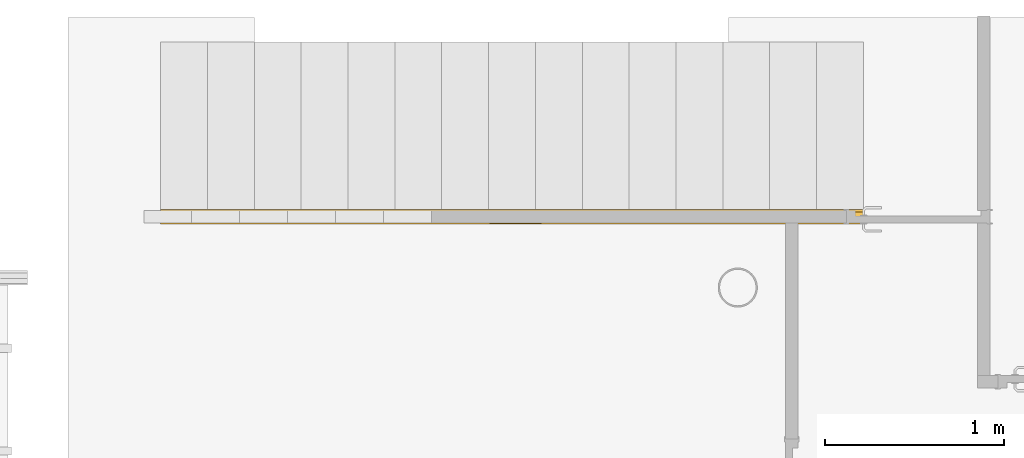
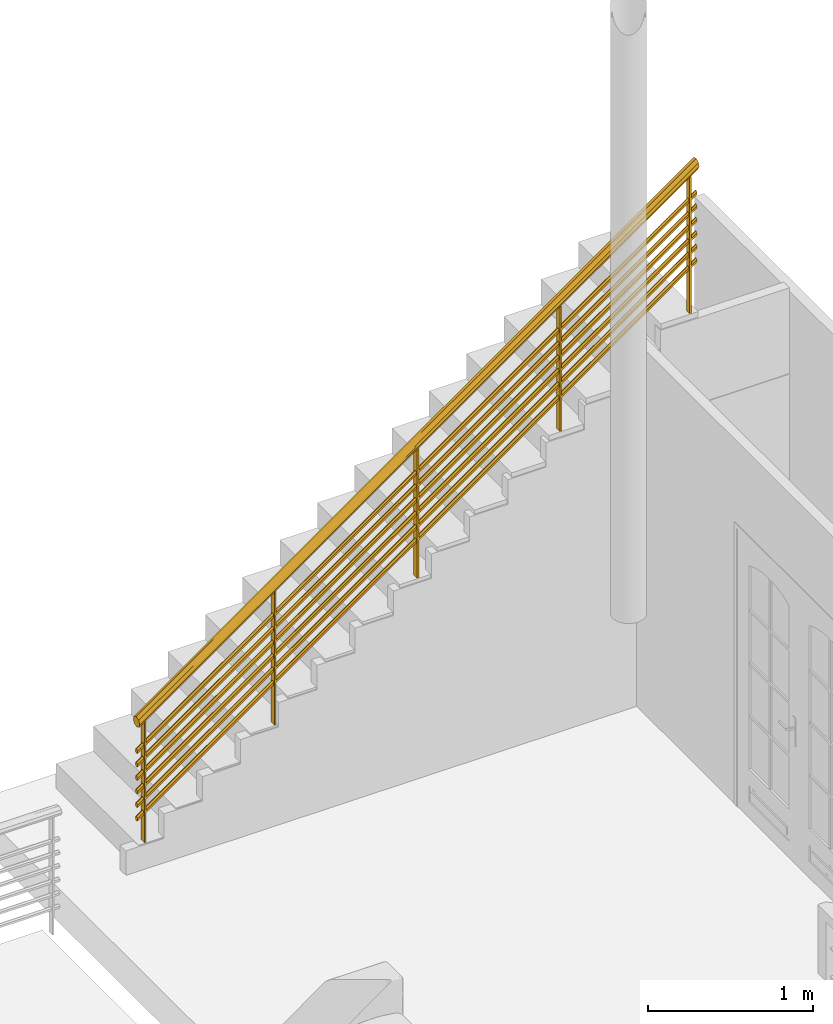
# One storey, part 12 of 15: 1 railing, 1 element without a shape of its own.
"""IFC2X3 building model written with IfcOpenShell, lengths in metres."""

from ifc_helpers import new_model, entity, si_unit, converted_unit, derived_unit, direction, frame, origin, place, context, subcontext, project, spatial, faceted_brep, element, aggregate, save


model = new_model("IFC2X3")

# Units and contexts
model_context = context("Model", 3, precision=1e-05, world=origin(), true_north=direction((6.12303176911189e-17, 1.0)))
body_context = subcontext(model_context, "Body", "Model", "MODEL_VIEW")
ifc_project = project(units=[si_unit("LENGTHUNIT", "METRE"), si_unit("AREAUNIT", "SQUARE_METRE"), si_unit("VOLUMEUNIT", "CUBIC_METRE"), converted_unit("PLANEANGLEUNIT", "DEGREE", entity("IfcRatioMeasure", 0.0174532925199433), si_unit("PLANEANGLEUNIT", "RADIAN"), dimensions=[0, 0, 0, 0, 0, 0, 0]), si_unit("MASSUNIT", "GRAM", prefix="KILO"), derived_unit("MASSDENSITYUNIT", [(si_unit("MASSUNIT", "GRAM", prefix="KILO"), 1), (si_unit("LENGTHUNIT", "METRE"), -3)]), derived_unit("MOMENTOFINERTIAUNIT", [(si_unit("LENGTHUNIT", "METRE"), 4)]), si_unit("TIMEUNIT", "SECOND"), si_unit("FREQUENCYUNIT", "HERTZ"), si_unit("THERMODYNAMICTEMPERATUREUNIT", "DEGREE_CELSIUS"), derived_unit("THERMALTRANSMITTANCEUNIT", [(si_unit("MASSUNIT", "GRAM", prefix="KILO"), 1), (si_unit("THERMODYNAMICTEMPERATUREUNIT", "KELVIN"), -1), (si_unit("TIMEUNIT", "SECOND"), -3)]), derived_unit("VOLUMETRICFLOWRATEUNIT", [(si_unit("LENGTHUNIT", "METRE"), 3), (si_unit("TIMEUNIT", "SECOND"), -1)]), si_unit("ELECTRICCURRENTUNIT", "AMPERE"), si_unit("ELECTRICVOLTAGEUNIT", "VOLT"), si_unit("POWERUNIT", "WATT"), si_unit("FORCEUNIT", "NEWTON", prefix="KILO"), si_unit("ILLUMINANCEUNIT", "LUX"), si_unit("LUMINOUSFLUXUNIT", "LUMEN"), si_unit("LUMINOUSINTENSITYUNIT", "CANDELA"), derived_unit("USERDEFINED", [(si_unit("MASSUNIT", "GRAM", prefix="KILO"), -1), (si_unit("LENGTHUNIT", "METRE"), -2), (si_unit("TIMEUNIT", "SECOND"), 3), (si_unit("LUMINOUSFLUXUNIT", "LUMEN"), 1)]), derived_unit("LINEARVELOCITYUNIT", [(si_unit("LENGTHUNIT", "METRE"), 1), (si_unit("TIMEUNIT", "SECOND"), -1)]), si_unit("PRESSUREUNIT", "PASCAL"), derived_unit("USERDEFINED", [(si_unit("LENGTHUNIT", "METRE"), -2), (si_unit("MASSUNIT", "GRAM", prefix="KILO"), 1), (si_unit("TIMEUNIT", "SECOND"), -2)]), derived_unit("LINEARFORCEUNIT", [(si_unit("MASSUNIT", "GRAM", prefix="KILO"), 1), (si_unit("LENGTHUNIT", "METRE"), 1), (si_unit("TIMEUNIT", "SECOND"), -2), (si_unit("LENGTHUNIT", "METRE"), -1)]), derived_unit("PLANARFORCEUNIT", [(si_unit("MASSUNIT", "GRAM", prefix="KILO"), 1), (si_unit("LENGTHUNIT", "METRE"), 1), (si_unit("TIMEUNIT", "SECOND"), -2), (si_unit("LENGTHUNIT", "METRE"), -2)])], contexts=[model_context])

# Site, building, storey
site_placement = place(None, origin())
site = spatial("IfcSite", under=ifc_project, at=site_placement, Name="Surface", CompositionType="ELEMENT")
building_placement = place(site_placement, origin())
building = spatial("IfcBuilding", under=site, at=building_placement, CompositionType="ELEMENT")
storey_placement = place(building_placement, frame((0.0, 0.0, 2.65)))
storey = spatial("IfcBuildingStorey", under=building, at=storey_placement, Name="Niveau étage", CompositionType="ELEMENT", Elevation=2.65)

# Stair, railing
stair_placement = place(storey_placement, origin())
stair = element("IfcStair", 1, at=stair_placement, inside=storey, Name="Escalier coulé sur place:Escalier", ObjectType="Escalier coulé sur place:Monobloc", ShapeType="STRAIGHT_RUN_STAIR")
railing_placement = place(stair_placement, frame((2.40601672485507, 5.84760138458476, 0.184374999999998)))
railing = element("IfcRailing", 2, at=railing_placement, Name="Garde-corps:Type Bateau", ObjectType="Garde-corps:Type Bateau", PredefinedType="NOTDEFINED", context=body_context, shape_type="Brep", body=[
    faceted_brep([(2.965375, 0.0615952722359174, 2.95164757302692), (2.953375, 0.0615952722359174, 2.95164757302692), (2.953375, 0.0215952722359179, 2.95164757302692), (2.965375, 0.0215952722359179, 2.95164757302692), (2.965375, 0.0615952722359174, 2.028125), (2.965375, 0.0215952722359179, 2.028125), (2.953375, 0.0215952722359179, 2.028125), (2.953375, 0.0615952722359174, 2.028125)], [[[0, 1, 2, 3]], [[4, 5, 6, 7]], [[1, 0, 4, 7]], [[2, 1, 7, 6]], [[3, 2, 6, 5]], [[0, 3, 5, 4]]]),
    faceted_brep([(1.965375, 0.0615952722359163, 2.24590594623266), (1.953375, 0.0615952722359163, 2.24590594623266), (1.953375, 0.0215952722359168, 2.24590594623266), (1.965375, 0.0215952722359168, 2.24590594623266), (1.965375, 0.0615952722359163, 1.290625), (1.965375, 0.0215952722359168, 1.290625), (1.953375, 0.0215952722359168, 1.290625), (1.953375, 0.0615952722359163, 1.290625)], [[[0, 1, 2, 3]], [[4, 5, 6, 7]], [[1, 0, 4, 7]], [[2, 1, 7, 6]], [[3, 2, 6, 5]], [[0, 3, 5, 4]]]),
    faceted_brep([(0.965375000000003, 0.0615952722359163, 1.5401643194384), (0.953375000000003, 0.0615952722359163, 1.5401643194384), (0.953375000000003, 0.0215952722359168, 1.5401643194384), (0.965375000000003, 0.0215952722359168, 1.5401643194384), (0.965375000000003, 0.0615952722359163, 0.553125), (0.965375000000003, 0.0215952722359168, 0.553125), (0.953375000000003, 0.0215952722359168, 0.553125), (0.953375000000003, 0.0615952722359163, 0.553125)], [[[0, 1, 2, 3]], [[4, 5, 6, 7]], [[1, 0, 4, 7]], [[2, 1, 7, 6]], [[3, 2, 6, 5]], [[0, 3, 5, 4]]]),
    faceted_brep([(3.87475, 0.0615952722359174, 3.59343136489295), (3.86275, 0.0615952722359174, 3.59343136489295), (3.86275, 0.0215952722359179, 3.59343136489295), (3.87475, 0.0215952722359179, 3.59343136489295), (3.87475, 0.0615952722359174, 2.58125), (3.87475, 0.0215952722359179, 2.58125), (3.86275, 0.0215952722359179, 2.58125), (3.86275, 0.0615952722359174, 2.58125)], [[[0, 1, 2, 3]], [[4, 5, 6, 7]], [[1, 0, 4, 7]], [[2, 1, 7, 6]], [[3, 2, 6, 5]], [[0, 3, 5, 4]]]),
    faceted_brep([(0.0560000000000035, 0.0615952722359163, 0.898380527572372), (0.0440000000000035, 0.0615952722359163, 0.898380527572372), (0.0440000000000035, 0.0215952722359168, 0.898380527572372), (0.0560000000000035, 0.0215952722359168, 0.898380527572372), (0.0560000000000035, 0.0615952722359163, 0.0), (0.0560000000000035, 0.0215952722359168, 0.0), (0.0440000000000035, 0.0215952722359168, 0.0), (0.0440000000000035, 0.0615952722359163, 0.0)], [[[0, 1, 2, 3]], [[4, 5, 6, 7]], [[1, 0, 4, 7]], [[2, 1, 7, 6]], [[3, 2, 6, 5]], [[0, 3, 5, 4]]]),
    faceted_brep([(0.0, 0.0545856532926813, 0.690820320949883), (0.0, 0.0545856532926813, 0.686230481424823), (0.0, 0.0545856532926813, 0.681640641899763), (0.0, 0.0545856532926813, 0.677050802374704), (0.0, 0.0545856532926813, 0.672460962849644), (0.0, 0.0513380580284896, 0.670166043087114), (0.0, 0.0480904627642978, 0.667871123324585), (0.0, 0.0454848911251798, 0.666029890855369), (0.0, 0.0415952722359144, 0.663281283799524), (0.0, 0.037705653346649, 0.666029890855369), (0.0, 0.0338160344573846, 0.668778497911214), (0.0, 0.0312104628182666, 0.670619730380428), (0.0, 0.0286048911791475, 0.672460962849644), (0.0, 0.0286048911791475, 0.677050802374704), (0.0, 0.0286048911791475, 0.681640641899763), (0.0, 0.0286048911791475, 0.686230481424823), (0.0, 0.0286048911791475, 0.690820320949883), (0.0, 0.0318524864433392, 0.693115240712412), (0.0, 0.0351000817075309, 0.695410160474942), (0.0, 0.0383476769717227, 0.697705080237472), (0.0, 0.0415952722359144, 0.700000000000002), (0.0, 0.0454848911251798, 0.697251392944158), (0.0, 0.0480904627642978, 0.695410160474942), (0.0, 0.0513380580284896, 0.693115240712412), (3.91875, 0.0545856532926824, 3.45644532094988), (3.91875, 0.051980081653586, 3.45828655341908), (3.91875, 0.0493745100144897, 3.46012778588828), (3.91875, 0.0454848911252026, 3.46287639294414), (3.91875, 0.0415952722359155, 3.465625), (3.91875, 0.03770565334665, 3.46287639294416), (3.91875, 0.035100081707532, 3.46103516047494), (3.91875, 0.0318524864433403, 3.45874024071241), (3.91875, 0.0286048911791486, 3.45644532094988), (3.91875, 0.0286048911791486, 3.45185548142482), (3.91875, 0.0286048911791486, 3.44726564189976), (3.91875, 0.0286048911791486, 3.4426758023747), (3.91875, 0.0286048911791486, 3.43808596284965), (3.91875, 0.0318524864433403, 3.43579104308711), (3.91875, 0.035100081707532, 3.43349612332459), (3.91875, 0.037705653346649, 3.43165489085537), (3.91875, 0.0415952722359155, 3.42890628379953), (3.91875, 0.0448428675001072, 3.43120120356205), (3.91875, 0.0480904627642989, 3.43349612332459), (3.91875, 0.0513380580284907, 3.43579104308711), (3.91875, 0.0545856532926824, 3.43808596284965), (3.91875, 0.0545856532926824, 3.4426758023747), (3.91875, 0.0545856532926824, 3.44726564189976), (3.91875, 0.0545856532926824, 3.45185548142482)], [[[0, 1, 2, 3, 4, 5, 6, 7, 8, 9, 10, 11, 12, 13, 14, 15, 16, 17, 18, 19, 20, 21, 22, 23]], [[24, 25, 26, 27, 28, 29, 30, 31, 32, 33, 34, 35, 36, 37, 38, 39, 40, 41, 42, 43, 44, 45, 46, 47]], [[33, 32, 16, 15, 14, 13, 12, 36, 35, 34]], [[36, 12, 11, 10, 9, 8, 40, 39, 38, 37]], [[28, 20, 19, 18, 17, 16, 32, 31, 30, 29]], [[0, 23, 22, 21, 20, 28, 27, 26, 25, 24]], [[6, 5, 4, 44, 43, 42, 41, 40, 8, 7]], [[3, 2, 1, 0, 24, 47, 46, 45, 44, 4]]]),
    faceted_brep([(0.0, 0.0545856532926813, 0.590820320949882), (0.0, 0.0545856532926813, 0.586230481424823), (0.0, 0.0545856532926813, 0.581640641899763), (0.0, 0.0545856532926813, 0.577050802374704), (0.0, 0.0545856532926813, 0.572460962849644), (0.0, 0.0513380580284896, 0.570166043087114), (0.0, 0.0480904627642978, 0.567871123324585), (0.0, 0.0454848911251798, 0.566029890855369), (0.0, 0.0415952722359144, 0.563281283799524), (0.0, 0.037705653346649, 0.566029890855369), (0.0, 0.0338160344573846, 0.568778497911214), (0.0, 0.0312104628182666, 0.570619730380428), (0.0, 0.0286048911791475, 0.572460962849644), (0.0, 0.0286048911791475, 0.577050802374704), (0.0, 0.0286048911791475, 0.581640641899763), (0.0, 0.0286048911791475, 0.586230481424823), (0.0, 0.0286048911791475, 0.590820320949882), (0.0, 0.0318524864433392, 0.593115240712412), (0.0, 0.0351000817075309, 0.595410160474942), (0.0, 0.0383476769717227, 0.597705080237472), (0.0, 0.0415952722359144, 0.600000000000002), (0.0, 0.0454848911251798, 0.597251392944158), (0.0, 0.0480904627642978, 0.595410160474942), (0.0, 0.0513380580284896, 0.593115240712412), (3.91875, 0.0545856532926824, 3.35644532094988), (3.91875, 0.051980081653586, 3.35828655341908), (3.91875, 0.0493745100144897, 3.36012778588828), (3.91875, 0.0454848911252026, 3.36287639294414), (3.91875, 0.0415952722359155, 3.365625), (3.91875, 0.03770565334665, 3.36287639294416), (3.91875, 0.035100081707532, 3.36103516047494), (3.91875, 0.0318524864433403, 3.35874024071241), (3.91875, 0.0286048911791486, 3.35644532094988), (3.91875, 0.0286048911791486, 3.35185548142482), (3.91875, 0.0286048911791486, 3.34726564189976), (3.91875, 0.0286048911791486, 3.34267580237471), (3.91875, 0.0286048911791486, 3.33808596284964), (3.91875, 0.0318524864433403, 3.33579104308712), (3.91875, 0.035100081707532, 3.33349612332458), (3.91875, 0.037705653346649, 3.33165489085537), (3.91875, 0.0415952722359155, 3.32890628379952), (3.91875, 0.0448428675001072, 3.33120120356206), (3.91875, 0.0480904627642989, 3.33349612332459), (3.91875, 0.0513380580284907, 3.33579104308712), (3.91875, 0.0545856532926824, 3.33808596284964), (3.91875, 0.0545856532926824, 3.34267580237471), (3.91875, 0.0545856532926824, 3.34726564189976), (3.91875, 0.0545856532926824, 3.35185548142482)], [[[0, 1, 2, 3, 4, 5, 6, 7, 8, 9, 10, 11, 12, 13, 14, 15, 16, 17, 18, 19, 20, 21, 22, 23]], [[24, 25, 26, 27, 28, 29, 30, 31, 32, 33, 34, 35, 36, 37, 38, 39, 40, 41, 42, 43, 44, 45, 46, 47]], [[33, 32, 16, 15, 14, 13, 12, 36, 35, 34]], [[36, 12, 11, 10, 9, 8, 40, 39, 38, 37]], [[28, 20, 19, 18, 17, 16, 32, 31, 30, 29]], [[0, 23, 22, 21, 20, 28, 27, 26, 25, 24]], [[6, 5, 4, 44, 43, 42, 41, 40, 8, 7]], [[3, 2, 1, 0, 24, 47, 46, 45, 44, 4]]]),
    faceted_brep([(0.0, 0.0545856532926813, 0.490820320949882), (0.0, 0.0545856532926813, 0.486230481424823), (0.0, 0.0545856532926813, 0.481640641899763), (0.0, 0.0545856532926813, 0.477050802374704), (0.0, 0.0545856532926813, 0.472460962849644), (0.0, 0.0513380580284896, 0.470166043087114), (0.0, 0.0480904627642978, 0.467871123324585), (0.0, 0.0454848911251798, 0.466029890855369), (0.0, 0.0415952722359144, 0.463281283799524), (0.0, 0.037705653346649, 0.466029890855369), (0.0, 0.0338160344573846, 0.468778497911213), (0.0, 0.0312104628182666, 0.470619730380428), (0.0, 0.0286048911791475, 0.472460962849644), (0.0, 0.0286048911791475, 0.477050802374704), (0.0, 0.0286048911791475, 0.481640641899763), (0.0, 0.0286048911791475, 0.486230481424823), (0.0, 0.0286048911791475, 0.490820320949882), (0.0, 0.0318524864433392, 0.493115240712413), (0.0, 0.0351000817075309, 0.495410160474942), (0.0, 0.0383476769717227, 0.497705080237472), (0.0, 0.0415952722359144, 0.500000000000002), (0.0, 0.0454848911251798, 0.497251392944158), (0.0, 0.0480904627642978, 0.495410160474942), (0.0, 0.0513380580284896, 0.493115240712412), (3.91875, 0.0545856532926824, 3.25644532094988), (3.91875, 0.051980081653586, 3.25828655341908), (3.91875, 0.0493745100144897, 3.26012778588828), (3.91875, 0.0454848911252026, 3.26287639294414), (3.91875, 0.0415952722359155, 3.265625), (3.91875, 0.03770565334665, 3.26287639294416), (3.91875, 0.035100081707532, 3.26103516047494), (3.91875, 0.0318524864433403, 3.25874024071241), (3.91875, 0.0286048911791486, 3.25644532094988), (3.91875, 0.0286048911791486, 3.25185548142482), (3.91875, 0.0286048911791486, 3.24726564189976), (3.91875, 0.0286048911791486, 3.2426758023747), (3.91875, 0.0286048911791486, 3.23808596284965), (3.91875, 0.0318524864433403, 3.23579104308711), (3.91875, 0.035100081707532, 3.23349612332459), (3.91875, 0.037705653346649, 3.23165489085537), (3.91875, 0.0415952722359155, 3.22890628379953), (3.91875, 0.0448428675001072, 3.23120120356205), (3.91875, 0.0480904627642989, 3.23349612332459), (3.91875, 0.0513380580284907, 3.23579104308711), (3.91875, 0.0545856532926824, 3.23808596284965), (3.91875, 0.0545856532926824, 3.2426758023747), (3.91875, 0.0545856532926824, 3.24726564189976), (3.91875, 0.0545856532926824, 3.25185548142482)], [[[0, 1, 2, 3, 4, 5, 6, 7, 8, 9, 10, 11, 12, 13, 14, 15, 16, 17, 18, 19, 20, 21, 22, 23]], [[24, 25, 26, 27, 28, 29, 30, 31, 32, 33, 34, 35, 36, 37, 38, 39, 40, 41, 42, 43, 44, 45, 46, 47]], [[33, 32, 16, 15, 14, 13, 12, 36, 35, 34]], [[36, 12, 11, 10, 9, 8, 40, 39, 38, 37]], [[28, 20, 19, 18, 17, 16, 32, 31, 30, 29]], [[0, 23, 22, 21, 20, 28, 27, 26, 25, 24]], [[6, 5, 4, 44, 43, 42, 41, 40, 8, 7]], [[3, 2, 1, 0, 24, 47, 46, 45, 44, 4]]]),
    faceted_brep([(0.0, 0.0545856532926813, 0.390820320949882), (0.0, 0.0545856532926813, 0.386230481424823), (0.0, 0.0545856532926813, 0.381640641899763), (0.0, 0.0545856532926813, 0.377050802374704), (0.0, 0.0545856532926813, 0.372460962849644), (0.0, 0.0513380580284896, 0.370166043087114), (0.0, 0.0480904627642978, 0.367871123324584), (0.0, 0.0454848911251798, 0.366029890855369), (0.0, 0.0415952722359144, 0.363281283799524), (0.0, 0.037705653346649, 0.366029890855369), (0.0, 0.0338160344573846, 0.368778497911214), (0.0, 0.0312104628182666, 0.370619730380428), (0.0, 0.0286048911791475, 0.372460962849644), (0.0, 0.0286048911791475, 0.377050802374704), (0.0, 0.0286048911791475, 0.381640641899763), (0.0, 0.0286048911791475, 0.386230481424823), (0.0, 0.0286048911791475, 0.390820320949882), (0.0, 0.0318524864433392, 0.393115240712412), (0.0, 0.0351000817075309, 0.395410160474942), (0.0, 0.0383476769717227, 0.397705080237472), (0.0, 0.0415952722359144, 0.400000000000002), (0.0, 0.0454848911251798, 0.397251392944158), (0.0, 0.0480904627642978, 0.395410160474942), (0.0, 0.0513380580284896, 0.393115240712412), (3.91875, 0.0545856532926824, 3.15644532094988), (3.91875, 0.051980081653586, 3.15828655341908), (3.91875, 0.0493745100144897, 3.16012778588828), (3.91875, 0.0454848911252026, 3.16287639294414), (3.91875, 0.0415952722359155, 3.165625), (3.91875, 0.03770565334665, 3.16287639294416), (3.91875, 0.035100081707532, 3.16103516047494), (3.91875, 0.0318524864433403, 3.15874024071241), (3.91875, 0.0286048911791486, 3.15644532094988), (3.91875, 0.0286048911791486, 3.15185548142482), (3.91875, 0.0286048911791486, 3.14726564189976), (3.91875, 0.0286048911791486, 3.14267580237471), (3.91875, 0.0286048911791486, 3.13808596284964), (3.91875, 0.0318524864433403, 3.13579104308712), (3.91875, 0.035100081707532, 3.13349612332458), (3.91875, 0.037705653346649, 3.13165489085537), (3.91875, 0.0415952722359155, 3.12890628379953), (3.91875, 0.0448428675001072, 3.13120120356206), (3.91875, 0.0480904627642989, 3.13349612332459), (3.91875, 0.0513380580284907, 3.13579104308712), (3.91875, 0.0545856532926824, 3.13808596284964), (3.91875, 0.0545856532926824, 3.14267580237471), (3.91875, 0.0545856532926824, 3.14726564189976), (3.91875, 0.0545856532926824, 3.15185548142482)], [[[0, 1, 2, 3, 4, 5, 6, 7, 8, 9, 10, 11, 12, 13, 14, 15, 16, 17, 18, 19, 20, 21, 22, 23]], [[24, 25, 26, 27, 28, 29, 30, 31, 32, 33, 34, 35, 36, 37, 38, 39, 40, 41, 42, 43, 44, 45, 46, 47]], [[33, 32, 16, 15, 14, 13, 12, 36, 35, 34]], [[36, 12, 11, 10, 9, 8, 40, 39, 38, 37]], [[28, 20, 19, 18, 17, 16, 32, 31, 30, 29]], [[0, 23, 22, 21, 20, 28, 27, 26, 25, 24]], [[6, 5, 4, 44, 43, 42, 41, 40, 8, 7]], [[3, 2, 1, 0, 24, 47, 46, 45, 44, 4]]]),
    faceted_brep([(0.0, 0.0545856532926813, 0.290820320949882), (0.0, 0.0545856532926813, 0.286230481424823), (0.0, 0.0545856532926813, 0.281640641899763), (0.0, 0.0545856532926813, 0.277050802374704), (0.0, 0.0545856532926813, 0.272460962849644), (0.0, 0.0513380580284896, 0.270166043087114), (0.0, 0.0480904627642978, 0.267871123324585), (0.0, 0.0454848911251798, 0.266029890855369), (0.0, 0.0415952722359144, 0.263281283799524), (0.0, 0.037705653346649, 0.266029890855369), (0.0, 0.0338160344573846, 0.268778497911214), (0.0, 0.0312104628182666, 0.270619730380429), (0.0, 0.0286048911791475, 0.272460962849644), (0.0, 0.0286048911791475, 0.277050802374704), (0.0, 0.0286048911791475, 0.281640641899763), (0.0, 0.0286048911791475, 0.286230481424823), (0.0, 0.0286048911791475, 0.290820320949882), (0.0, 0.0318524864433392, 0.293115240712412), (0.0, 0.0351000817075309, 0.295410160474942), (0.0, 0.0383476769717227, 0.297705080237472), (0.0, 0.0415952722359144, 0.300000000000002), (0.0, 0.0454848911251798, 0.297251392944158), (0.0, 0.0480904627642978, 0.295410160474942), (0.0, 0.0513380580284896, 0.293115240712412), (3.91875, 0.0545856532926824, 3.05644532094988), (3.91875, 0.051980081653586, 3.05828655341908), (3.91875, 0.0493745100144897, 3.06012778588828), (3.91875, 0.0454848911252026, 3.06287639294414), (3.91875, 0.0415952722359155, 3.065625), (3.91875, 0.03770565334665, 3.06287639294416), (3.91875, 0.035100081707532, 3.06103516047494), (3.91875, 0.0318524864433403, 3.05874024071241), (3.91875, 0.0286048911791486, 3.05644532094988), (3.91875, 0.0286048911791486, 3.05185548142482), (3.91875, 0.0286048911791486, 3.04726564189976), (3.91875, 0.0286048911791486, 3.0426758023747), (3.91875, 0.0286048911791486, 3.03808596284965), (3.91875, 0.0318524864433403, 3.03579104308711), (3.91875, 0.035100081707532, 3.03349612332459), (3.91875, 0.037705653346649, 3.03165489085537), (3.91875, 0.0415952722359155, 3.02890628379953), (3.91875, 0.0448428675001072, 3.03120120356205), (3.91875, 0.0480904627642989, 3.03349612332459), (3.91875, 0.0513380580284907, 3.03579104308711), (3.91875, 0.0545856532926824, 3.03808596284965), (3.91875, 0.0545856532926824, 3.0426758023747), (3.91875, 0.0545856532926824, 3.04726564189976), (3.91875, 0.0545856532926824, 3.05185548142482)], [[[0, 1, 2, 3, 4, 5, 6, 7, 8, 9, 10, 11, 12, 13, 14, 15, 16, 17, 18, 19, 20, 21, 22, 23]], [[24, 25, 26, 27, 28, 29, 30, 31, 32, 33, 34, 35, 36, 37, 38, 39, 40, 41, 42, 43, 44, 45, 46, 47]], [[33, 32, 16, 15, 14, 13, 12, 36, 35, 34]], [[36, 12, 11, 10, 9, 8, 40, 39, 38, 37]], [[28, 20, 19, 18, 17, 16, 32, 31, 30, 29]], [[0, 23, 22, 21, 20, 28, 27, 26, 25, 24]], [[6, 5, 4, 44, 43, 42, 41, 40, 8, 7]], [[3, 2, 1, 0, 24, 47, 46, 45, 44, 4]]]),
    faceted_brep([(0.0, 0.0545856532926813, 0.190820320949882), (0.0, 0.0545856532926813, 0.186230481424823), (0.0, 0.0545856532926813, 0.181640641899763), (0.0, 0.0545856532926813, 0.177050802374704), (0.0, 0.0545856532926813, 0.172460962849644), (0.0, 0.0513380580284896, 0.170166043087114), (0.0, 0.0480904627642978, 0.167871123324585), (0.0, 0.0454848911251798, 0.166029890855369), (0.0, 0.0415952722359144, 0.163281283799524), (0.0, 0.037705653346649, 0.166029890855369), (0.0, 0.0338160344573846, 0.168778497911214), (0.0, 0.0312104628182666, 0.170619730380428), (0.0, 0.0286048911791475, 0.172460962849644), (0.0, 0.0286048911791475, 0.177050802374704), (0.0, 0.0286048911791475, 0.181640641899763), (0.0, 0.0286048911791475, 0.186230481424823), (0.0, 0.0286048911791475, 0.190820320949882), (0.0, 0.0318524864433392, 0.193115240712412), (0.0, 0.0351000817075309, 0.195410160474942), (0.0, 0.0383476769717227, 0.197705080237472), (0.0, 0.0415952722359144, 0.200000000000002), (0.0, 0.0454848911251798, 0.197251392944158), (0.0, 0.0480904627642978, 0.195410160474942), (0.0, 0.0513380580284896, 0.193115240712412), (3.91875, 0.0545856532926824, 2.95644532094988), (3.91875, 0.051980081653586, 2.95828655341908), (3.91875, 0.0493745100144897, 2.96012778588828), (3.91875, 0.0454848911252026, 2.96287639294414), (3.91875, 0.0415952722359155, 2.965625), (3.91875, 0.03770565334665, 2.96287639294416), (3.91875, 0.035100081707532, 2.96103516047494), (3.91875, 0.0318524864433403, 2.95874024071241), (3.91875, 0.0286048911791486, 2.95644532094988), (3.91875, 0.0286048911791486, 2.95185548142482), (3.91875, 0.0286048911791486, 2.94726564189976), (3.91875, 0.0286048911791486, 2.94267580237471), (3.91875, 0.0286048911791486, 2.93808596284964), (3.91875, 0.0318524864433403, 2.93579104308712), (3.91875, 0.035100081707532, 2.93349612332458), (3.91875, 0.037705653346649, 2.93165489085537), (3.91875, 0.0415952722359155, 2.92890628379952), (3.91875, 0.0448428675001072, 2.93120120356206), (3.91875, 0.0480904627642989, 2.93349612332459), (3.91875, 0.0513380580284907, 2.93579104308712), (3.91875, 0.0545856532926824, 2.93808596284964), (3.91875, 0.0545856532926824, 2.94267580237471), (3.91875, 0.0545856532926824, 2.94726564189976), (3.91875, 0.0545856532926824, 2.95185548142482)], [[[0, 1, 2, 3, 4, 5, 6, 7, 8, 9, 10, 11, 12, 13, 14, 15, 16, 17, 18, 19, 20, 21, 22, 23]], [[24, 25, 26, 27, 28, 29, 30, 31, 32, 33, 34, 35, 36, 37, 38, 39, 40, 41, 42, 43, 44, 45, 46, 47]], [[33, 32, 16, 15, 14, 13, 12, 36, 35, 34]], [[36, 12, 11, 10, 9, 8, 40, 39, 38, 37]], [[28, 20, 19, 18, 17, 16, 32, 31, 30, 29]], [[0, 23, 22, 21, 20, 28, 27, 26, 25, 24]], [[6, 5, 4, 44, 43, 42, 41, 40, 8, 7]], [[3, 2, 1, 0, 24, 47, 46, 45, 44, 4]]]),
    faceted_brep([(0.0, 0.0148300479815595, 0.92728732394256), (0.0, 0.0303032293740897, 0.931902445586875), (0.0, 0.045776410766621, 0.93651756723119), (0.0, 0.0598661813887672, 0.929050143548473), (0.0, 0.0739559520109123, 0.921582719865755), (0.0, 0.077775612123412, 0.910791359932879), (0.0, 0.081595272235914, 0.900000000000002), (0.0, 0.0749778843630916, 0.886356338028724), (0.0, 0.0683604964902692, 0.872712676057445), (0.0, 0.0528873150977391, 0.86809755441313), (0.0, 0.0451507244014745, 0.865789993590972), (0.0, 0.0374141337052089, 0.863482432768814), (0.0, 0.0233243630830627, 0.870949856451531), (0.0, 0.00923459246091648, 0.878417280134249), (0.0, 0.00541493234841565, 0.889208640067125), (0.0, 0.00159527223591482, 0.900000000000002), (0.0, 0.00821266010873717, 0.913643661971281), (3.91875, 0.00821266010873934, 3.65198133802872), (3.91875, 0.0148300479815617, 3.63833767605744), (3.91875, 0.0303032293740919, 3.63372255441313), (3.91875, 0.0457764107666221, 3.62910743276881), (3.91875, 0.0598661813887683, 3.63657485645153), (3.91875, 0.0739559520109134, 3.64404228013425), (3.91875, 0.0777756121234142, 3.65483364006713), (3.91875, 0.081595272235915, 3.665625), (3.91875, 0.0749778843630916, 3.67926866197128), (3.91875, 0.0683604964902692, 3.69291232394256), (3.91875, 0.0528873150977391, 3.69752744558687), (3.91875, 0.0374141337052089, 3.70214256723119), (3.91875, 0.0303692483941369, 3.69840885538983), (3.91875, 0.0233243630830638, 3.69467514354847), (3.91875, 0.00923459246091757, 3.68720771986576), (3.91875, 0.00564823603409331, 3.6770754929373), (3.91875, 0.0015952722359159, 3.665625), (1.38154477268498, 0.081595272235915, 1.8750136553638), (2.05977889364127, 0.0566908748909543, 2.3196681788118), (2.07974189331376, 0.0663431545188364, 2.33891311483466), (1.63536940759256, 0.0739457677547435, 2.03255268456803), (1.96466148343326, 0.0788939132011, 2.27327847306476), (2.14424713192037, 0.0200431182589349, 2.38235146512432), (1.71197383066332, 0.0301748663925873, 2.07302087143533), (1.96001330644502, 0.0415882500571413, 2.24654426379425), (1.98536768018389, 0.0116455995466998, 2.27681718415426), (1.83275166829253, 0.0055673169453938, 2.17749692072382), (2.53720614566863, 0.0015952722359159, 2.69061199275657), (2.53719979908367, 0.081595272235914, 2.69060751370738), (1.77328689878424, 0.0082106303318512, 2.17170822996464), (2.20523780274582, 0.0155916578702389, 2.48422908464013), (1.95880718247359, 0.0253361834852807, 2.31596022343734), (1.74933492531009, 0.0805946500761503, 2.14274005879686), (1.79600226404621, 0.0772446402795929, 2.18416709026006), (1.87342121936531, 0.040486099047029, 2.25885593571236), (1.82774405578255, 0.0515582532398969, 2.22547656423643), (1.90999383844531, 0.0708924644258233, 2.27296182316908), (1.88357280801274, 0.00357275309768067, 2.24071806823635), (2.2708461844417, 0.061719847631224, 2.53436372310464)], [[[0, 1, 2, 3, 4, 5, 6, 7, 8, 9, 10, 11, 12, 13, 14, 15, 16]], [[17, 18, 19, 20, 21, 22, 23, 24, 25, 26, 27, 28, 29, 30, 31, 32, 33]], [[7, 6, 34]], [[9, 8, 35, 10]], [[22, 36, 37]], [[36, 35, 8]], [[21, 35, 36]], [[38, 7, 34]], [[39, 40, 19]], [[37, 7, 38]], [[19, 40, 41]], [[42, 39, 18]], [[13, 43, 14]], [[8, 37, 36]], [[42, 12, 39]], [[37, 8, 7]], [[11, 41, 40]], [[17, 33, 44]], [[38, 23, 22]], [[11, 10, 41]], [[23, 34, 45, 24]], [[21, 36, 22]], [[35, 21, 20]], [[35, 20, 41]], [[35, 41, 10]], [[41, 20, 19]], [[40, 12, 11]], [[12, 40, 39]], [[13, 12, 42]], [[18, 39, 19]], [[44, 15, 14]], [[42, 18, 17]], [[17, 43, 42]], [[37, 38, 22]], [[43, 17, 44]], [[23, 38, 34]], [[42, 43, 13]], [[14, 43, 44]], [[32, 31, 46]], [[0, 46, 47]], [[47, 30, 48]], [[30, 29, 48]], [[49, 50, 25]], [[2, 51, 52]], [[53, 26, 25]], [[53, 50, 4]], [[49, 25, 24]], [[54, 16, 15]], [[53, 25, 50]], [[5, 4, 50]], [[5, 50, 49]], [[55, 53, 3]], [[55, 3, 52]], [[48, 0, 47]], [[26, 53, 55]], [[49, 24, 45, 34, 6]], [[52, 51, 27]], [[53, 4, 3]], [[55, 27, 26]], [[27, 55, 52]], [[28, 27, 51]], [[2, 52, 3]], [[29, 28, 51]], [[51, 2, 1]], [[1, 0, 48]], [[51, 48, 29]], [[1, 48, 51]], [[47, 31, 30]], [[31, 47, 46]], [[32, 46, 54]], [[16, 46, 0]], [[33, 32, 44]], [[46, 16, 54]], [[54, 44, 32]], [[44, 54, 15]], [[5, 49, 6]]]),
])
aggregate(stair, [railing])

save(model, "model.ifc")
